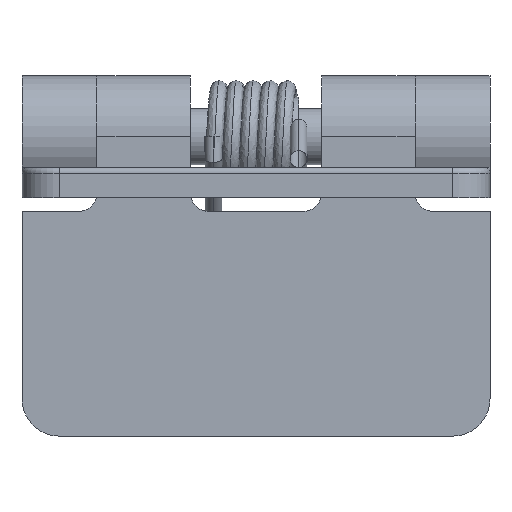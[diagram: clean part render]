
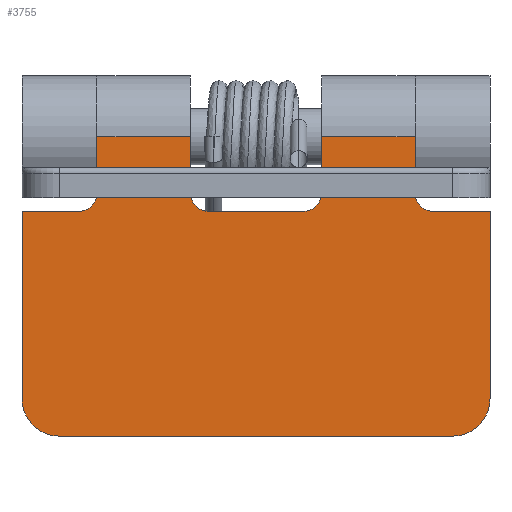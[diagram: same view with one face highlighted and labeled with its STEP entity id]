
A CAD part, left-side view. The second image highlights one B-rep face of the part: STEP entity #3755.
In plain terms, the highlighted planar face has unit normal (-1, 0, 0) as drawn and (0, 0, -1) by its records, which use the part's own axes.
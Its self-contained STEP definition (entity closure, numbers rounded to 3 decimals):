
#73 = LINE ( 'NONE', #74, #75 ) ;
#74 = CARTESIAN_POINT ( 'NONE',  ( 0., -3.5, -3.25 ) ) ;
#75 = VECTOR ( 'NONE', #76, 1000. ) ;
#76 = DIRECTION ( 'NONE',  ( -1., 0., 0. ) ) ;
#100 = LINE ( 'NONE', #101, #102 ) ;
#101 = CARTESIAN_POINT ( 'NONE',  ( 0., 12.5, -3.25 ) ) ;
#102 = VECTOR ( 'NONE', #103, 1000. ) ;
#103 = DIRECTION ( 'NONE',  ( 0., -1., 0. ) ) ;
#149 = EDGE_CURVE ( 'NONE', #3902, #959, #2561, .T. ) ;
#261 = CARTESIAN_POINT ( 'NONE',  ( -14., -12.5, -3.25 ) ) ;
#277 = CARTESIAN_POINT ( 'NONE',  ( -4., -9.5, -3.25 ) ) ;
#350 = FACE_OUTER_BOUND ( 'NONE', #3530, .T. ) ;
#351 = PLANE ( 'NONE',  #352 ) ;
#352 = AXIS2_PLACEMENT_3D ( 'NONE', #354, #355, #356 ) ;
#354 = CARTESIAN_POINT ( 'NONE',  ( 0., 12.5, -3.25 ) ) ;
#355 = DIRECTION ( 'NONE',  ( 0., 0., 1. ) ) ;
#356 = DIRECTION ( 'NONE',  ( 1., 0., 0. ) ) ;
#357 = CARTESIAN_POINT ( 'NONE',  ( -16., 10.5, -3.25 ) ) ;
#441 = LINE ( 'NONE', #442, #443 ) ;
#442 = CARTESIAN_POINT ( 'NONE',  ( 0., -12.5, -3.25 ) ) ;
#443 = VECTOR ( 'NONE', #444, 1000. ) ;
#444 = DIRECTION ( 'NONE',  ( -1., 0., 0. ) ) ;
#446 = CIRCLE ( 'NONE', #447, 1. ) ;
#447 = AXIS2_PLACEMENT_3D ( 'NONE', #448, #449, #450 ) ;
#448 = CARTESIAN_POINT ( 'NONE',  ( -3., -9.5, -3.25 ) ) ;
#449 = DIRECTION ( 'NONE',  ( 0., 0., 1. ) ) ;
#450 = DIRECTION ( 'NONE',  ( 1., 0., 0. ) ) ;
#485 = ORIENTED_EDGE ( 'NONE', *, *, #149, .F. ) ;
#495 = CARTESIAN_POINT ( 'NONE',  ( -4., 12.5, -3.25 ) ) ;
#527 = LINE ( 'NONE', #528, #529 ) ;
#528 = CARTESIAN_POINT ( 'NONE',  ( -16., 12.5, -3.25 ) ) ;
#529 = VECTOR ( 'NONE', #530, 1000. ) ;
#530 = DIRECTION ( 'NONE',  ( 0., -1., 0. ) ) ;
#543 = CARTESIAN_POINT ( 'NONE',  ( -3., 8.5, -3.25 ) ) ;
#550 = CARTESIAN_POINT ( 'NONE',  ( -4., 2.5, -3.25 ) ) ;
#572 = CIRCLE ( 'NONE', #573, 1. ) ;
#573 = AXIS2_PLACEMENT_3D ( 'NONE', #574, #575, #576 ) ;
#574 = CARTESIAN_POINT ( 'NONE',  ( -3., 9.5, -3.25 ) ) ;
#575 = DIRECTION ( 'NONE',  ( 0., 0., 1. ) ) ;
#576 = DIRECTION ( 'NONE',  ( 1., 0., 0. ) ) ;
#578 = CARTESIAN_POINT ( 'NONE',  ( 0., -8.5, -3.25 ) ) ;
#604 = CIRCLE ( 'NONE', #605, 1. ) ;
#605 = AXIS2_PLACEMENT_3D ( 'NONE', #607, #608, #609 ) ;
#607 = CARTESIAN_POINT ( 'NONE',  ( -3., 2.5, -3.25 ) ) ;
#608 = DIRECTION ( 'NONE',  ( 0., 0., 1. ) ) ;
#609 = DIRECTION ( 'NONE',  ( 1., 0., 0. ) ) ;
#959 = VERTEX_POINT ( 'NONE', #3551 ) ;
#1161 = EDGE_CURVE ( 'NONE', #1971, #959, #3694, .T. ) ;
#1412 = CARTESIAN_POINT ( 'NONE',  ( -3., -8.5, -3.25 ) ) ;
#1498 = ORIENTED_EDGE ( 'NONE', *, *, #1161, .T. ) ;
#1502 = CARTESIAN_POINT ( 'NONE',  ( -16., -10.5, -3.25 ) ) ;
#1971 = VERTEX_POINT ( 'NONE', #357 ) ;
#2118 = EDGE_CURVE ( 'NONE', #1971, #2160, #527, .T. ) ;
#2137 = ORIENTED_EDGE ( 'NONE', *, *, #2118, .F. ) ;
#2160 = VERTEX_POINT ( 'NONE', #1502 ) ;
#2164 = EDGE_CURVE ( 'NONE', #4169, #2160, #3552, .T. ) ;
#2179 = VERTEX_POINT ( 'NONE', #3704 ) ;
#2193 = EDGE_CURVE ( 'NONE', #2249, #2179, #3850, .T. ) ;
#2213 = ORIENTED_EDGE ( 'NONE', *, *, #2193, .T. ) ;
#2249 = VERTEX_POINT ( 'NONE', #2571 ) ;
#2260 = EDGE_CURVE ( 'NONE', #2311, #2249, #2636, .T. ) ;
#2286 = ORIENTED_EDGE ( 'NONE', *, *, #2260, .T. ) ;
#2311 = VERTEX_POINT ( 'NONE', #3710 ) ;
#2323 = EDGE_CURVE ( 'NONE', #2311, #2401, #3858, .T. ) ;
#2352 = ORIENTED_EDGE ( 'NONE', *, *, #2323, .F. ) ;
#2364 = VERTEX_POINT ( 'NONE', #277 ) ;
#2384 = EDGE_CURVE ( 'NONE', #2477, #2364, #446, .T. ) ;
#2401 = VERTEX_POINT ( 'NONE', #543 ) ;
#2423 = ORIENTED_EDGE ( 'NONE', *, *, #2384, .T. ) ;
#2425 = EDGE_CURVE ( 'NONE', #2828, #2401, #572, .T. ) ;
#2465 = ORIENTED_EDGE ( 'NONE', *, *, #2425, .T. ) ;
#2477 = VERTEX_POINT ( 'NONE', #1412 ) ;
#2561 = LINE ( 'NONE', #2562, #2563 ) ;
#2562 = CARTESIAN_POINT ( 'NONE',  ( 0., 12.5, -3.25 ) ) ;
#2563 = VECTOR ( 'NONE', #2564, 1000. ) ;
#2564 = DIRECTION ( 'NONE',  ( -1., 0., 0. ) ) ;
#2571 = CARTESIAN_POINT ( 'NONE',  ( 0., 3.5, -3.25 ) ) ;
#2597 = CARTESIAN_POINT ( 'NONE',  ( -3., -3.5, -3.25 ) ) ;
#2636 = LINE ( 'NONE', #2637, #2638 ) ;
#2637 = CARTESIAN_POINT ( 'NONE',  ( 0., 12.5, -3.25 ) ) ;
#2638 = VECTOR ( 'NONE', #2639, 1000. ) ;
#2639 = DIRECTION ( 'NONE',  ( 0., -1., 0. ) ) ;
#2651 = CIRCLE ( 'NONE', #2652, 1. ) ;
#2652 = AXIS2_PLACEMENT_3D ( 'NONE', #2653, #2654, #2655 ) ;
#2653 = CARTESIAN_POINT ( 'NONE',  ( -3., -2.5, -3.25 ) ) ;
#2654 = DIRECTION ( 'NONE',  ( 0., 0., 1. ) ) ;
#2655 = DIRECTION ( 'NONE',  ( 1., 0., 0. ) ) ;
#2828 = VERTEX_POINT ( 'NONE', #3646 ) ;
#2866 = EDGE_CURVE ( 'NONE', #4085, #2477, #3669, .T. ) ;
#2903 = ORIENTED_EDGE ( 'NONE', *, *, #4041, .T. ) ;
#3026 = ORIENTED_EDGE ( 'NONE', *, *, #2866, .T. ) ;
#3043 = EDGE_CURVE ( 'NONE', #3902, #2828, #3777, .T. ) ;
#3397 = ORIENTED_EDGE ( 'NONE', *, *, #3043, .T. ) ;
#3398 = EDGE_CURVE ( 'NONE', #4029, #3972, #73, .T. ) ;
#3460 = CARTESIAN_POINT ( 'NONE',  ( -4., -12.5, -3.25 ) ) ;
#3521 = LINE ( 'NONE', #3522, #3523 ) ;
#3522 = CARTESIAN_POINT ( 'NONE',  ( -4., -12.501, -3.25 ) ) ;
#3523 = VECTOR ( 'NONE', #3524, 1000. ) ;
#3524 = DIRECTION ( 'NONE',  ( 0., 1., 0. ) ) ;
#3530 = EDGE_LOOP ( 'NONE', ( #3026, #2423, #4251, #4196, #4145, #2137, #1498, #485, #3397, #2465, #2352, #2286, #2213, #4110, #4048, #4000, #3756, #2903 ) ) ;
#3551 = CARTESIAN_POINT ( 'NONE',  ( -14., 12.5, -3.25 ) ) ;
#3552 = CIRCLE ( 'NONE', #3553, 2. ) ;
#3553 = AXIS2_PLACEMENT_3D ( 'NONE', #3554, #3555, #3556 ) ;
#3554 = CARTESIAN_POINT ( 'NONE',  ( -14., -10.5, -3.25 ) ) ;
#3555 = DIRECTION ( 'NONE',  ( 0., 0., -1. ) ) ;
#3556 = DIRECTION ( 'NONE',  ( 1., 0., 0. ) ) ;
#3646 = CARTESIAN_POINT ( 'NONE',  ( -4., 9.5, -3.25 ) ) ;
#3669 = LINE ( 'NONE', #3670, #3671 ) ;
#3670 = CARTESIAN_POINT ( 'NONE',  ( 0., -8.5, -3.25 ) ) ;
#3671 = VECTOR ( 'NONE', #3672, 1000. ) ;
#3672 = DIRECTION ( 'NONE',  ( -1., 0., 0. ) ) ;
#3694 = CIRCLE ( 'NONE', #3695, 2. ) ;
#3695 = AXIS2_PLACEMENT_3D ( 'NONE', #3696, #3697, #3698 ) ;
#3696 = CARTESIAN_POINT ( 'NONE',  ( -14., 10.5, -3.25 ) ) ;
#3697 = DIRECTION ( 'NONE',  ( 0., 0., -1. ) ) ;
#3698 = DIRECTION ( 'NONE',  ( 1., 0., 0. ) ) ;
#3704 = CARTESIAN_POINT ( 'NONE',  ( -3., 3.5, -3.25 ) ) ;
#3710 = CARTESIAN_POINT ( 'NONE',  ( 0., 8.5, -3.25 ) ) ;
#3755 = ADVANCED_FACE ( 'NONE', ( #350 ), #351, .F. ) ;
#3756 = ORIENTED_EDGE ( 'NONE', *, *, #3398, .F. ) ;
#3777 = LINE ( 'NONE', #3778, #3779 ) ;
#3778 = CARTESIAN_POINT ( 'NONE',  ( -4., 12.501, -3.25 ) ) ;
#3779 = VECTOR ( 'NONE', #3780, 1000. ) ;
#3780 = DIRECTION ( 'NONE',  ( 0., -1., 0. ) ) ;
#3781 = CARTESIAN_POINT ( 'NONE',  ( -4., -2.5, -3.25 ) ) ;
#3850 = LINE ( 'NONE', #3851, #3852 ) ;
#3851 = CARTESIAN_POINT ( 'NONE',  ( 0., 3.5, -3.25 ) ) ;
#3852 = VECTOR ( 'NONE', #3853, 1000. ) ;
#3853 = DIRECTION ( 'NONE',  ( -1., 0., 0. ) ) ;
#3858 = LINE ( 'NONE', #3859, #3860 ) ;
#3859 = CARTESIAN_POINT ( 'NONE',  ( 0., 8.5, -3.25 ) ) ;
#3860 = VECTOR ( 'NONE', #3861, 1000. ) ;
#3861 = DIRECTION ( 'NONE',  ( -1., 0., 0. ) ) ;
#3876 = CARTESIAN_POINT ( 'NONE',  ( 0., -3.5, -3.25 ) ) ;
#3902 = VERTEX_POINT ( 'NONE', #495 ) ;
#3917 = LINE ( 'NONE', #3918, #3922 ) ;
#3918 = CARTESIAN_POINT ( 'NONE',  ( -4., -3.5, -3.25 ) ) ;
#3922 = VECTOR ( 'NONE', #3923, 1000. ) ;
#3923 = DIRECTION ( 'NONE',  ( 0., 1., 0. ) ) ;
#3972 = VERTEX_POINT ( 'NONE', #2597 ) ;
#3982 = EDGE_CURVE ( 'NONE', #4020, #3972, #2651, .T. ) ;
#4000 = ORIENTED_EDGE ( 'NONE', *, *, #3982, .T. ) ;
#4020 = VERTEX_POINT ( 'NONE', #3781 ) ;
#4029 = VERTEX_POINT ( 'NONE', #3876 ) ;
#4032 = EDGE_CURVE ( 'NONE', #4020, #4075, #3917, .T. ) ;
#4041 = EDGE_CURVE ( 'NONE', #4029, #4085, #100, .T. ) ;
#4048 = ORIENTED_EDGE ( 'NONE', *, *, #4032, .F. ) ;
#4075 = VERTEX_POINT ( 'NONE', #550 ) ;
#4085 = VERTEX_POINT ( 'NONE', #578 ) ;
#4088 = EDGE_CURVE ( 'NONE', #2179, #4075, #604, .T. ) ;
#4110 = ORIENTED_EDGE ( 'NONE', *, *, #4088, .T. ) ;
#4145 = ORIENTED_EDGE ( 'NONE', *, *, #2164, .T. ) ;
#4169 = VERTEX_POINT ( 'NONE', #261 ) ;
#4180 = EDGE_CURVE ( 'NONE', #4222, #4169, #441, .T. ) ;
#4196 = ORIENTED_EDGE ( 'NONE', *, *, #4180, .T. ) ;
#4222 = VERTEX_POINT ( 'NONE', #3460 ) ;
#4231 = EDGE_CURVE ( 'NONE', #4222, #2364, #3521, .T. ) ;
#4251 = ORIENTED_EDGE ( 'NONE', *, *, #4231, .F. ) ;
